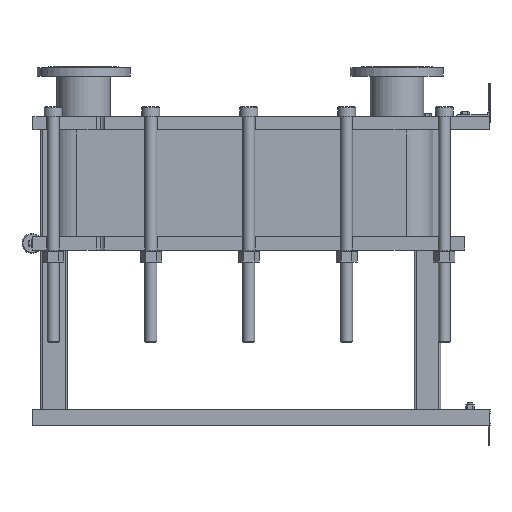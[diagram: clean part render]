
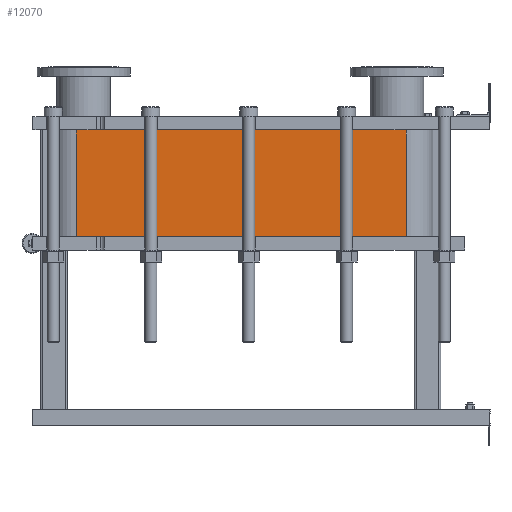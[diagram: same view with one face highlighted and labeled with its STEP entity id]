
A CAD part, left-side view. The second image highlights one B-rep face of the part: STEP entity #12070.
In plain terms, the highlighted planar face has unit normal (-1, 0, 0).
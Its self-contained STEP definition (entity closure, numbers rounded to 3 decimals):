
#1064=LINE('',#21140,#2164);
#1065=LINE('',#21144,#2165);
#1066=LINE('',#21146,#2166);
#1067=LINE('',#21147,#2167);
#2164=VECTOR('',#15790,10.);
#2165=VECTOR('',#15795,10.);
#2166=VECTOR('',#15796,10.);
#2167=VECTOR('',#15797,10.);
#3304=FACE_OUTER_BOUND('',#4091,.T.);
#4091=EDGE_LOOP('',(#9793,#9794,#9795,#9796));
#5677=VERTEX_POINT('',#21137);
#5678=VERTEX_POINT('',#21139);
#5679=VERTEX_POINT('',#21143);
#5680=VERTEX_POINT('',#21145);
#7118=EDGE_CURVE('',#5678,#5677,#1064,.T.);
#7120=EDGE_CURVE('',#5677,#5679,#1065,.T.);
#7121=EDGE_CURVE('',#5680,#5679,#1066,.T.);
#7122=EDGE_CURVE('',#5680,#5678,#1067,.T.);
#9793=ORIENTED_EDGE('',*,*,#7120,.T.);
#9794=ORIENTED_EDGE('',*,*,#7121,.F.);
#9795=ORIENTED_EDGE('',*,*,#7122,.T.);
#9796=ORIENTED_EDGE('',*,*,#7118,.T.);
#11441=PLANE('',#13191);
#12070=ADVANCED_FACE('',(#3304),#11441,.T.);
#13191=AXIS2_PLACEMENT_3D('',#21142,#15793,#15794);
#15790=DIRECTION('',(0.,0.,-1.));
#15793=DIRECTION('center_axis',(-1.,0.,0.));
#15794=DIRECTION('ref_axis',(0.,1.,0.));
#15795=DIRECTION('',(0.,-1.,0.));
#15796=DIRECTION('',(0.,0.,-1.));
#15797=DIRECTION('',(0.,1.,0.));
#21137=CARTESIAN_POINT('',(-248.152,1243.818,-320.85));
#21139=CARTESIAN_POINT('',(-248.152,1243.818,0.));
#21140=CARTESIAN_POINT('',(-248.152,1243.818,0.));
#21142=CARTESIAN_POINT('Origin',(-248.152,251.818,0.));
#21143=CARTESIAN_POINT('',(-248.152,251.818,-320.85));
#21144=CARTESIAN_POINT('',(-248.152,499.818,-320.85));
#21145=CARTESIAN_POINT('',(-248.152,251.818,0.));
#21146=CARTESIAN_POINT('',(-248.152,251.818,0.));
#21147=CARTESIAN_POINT('',(-248.152,251.818,0.));
